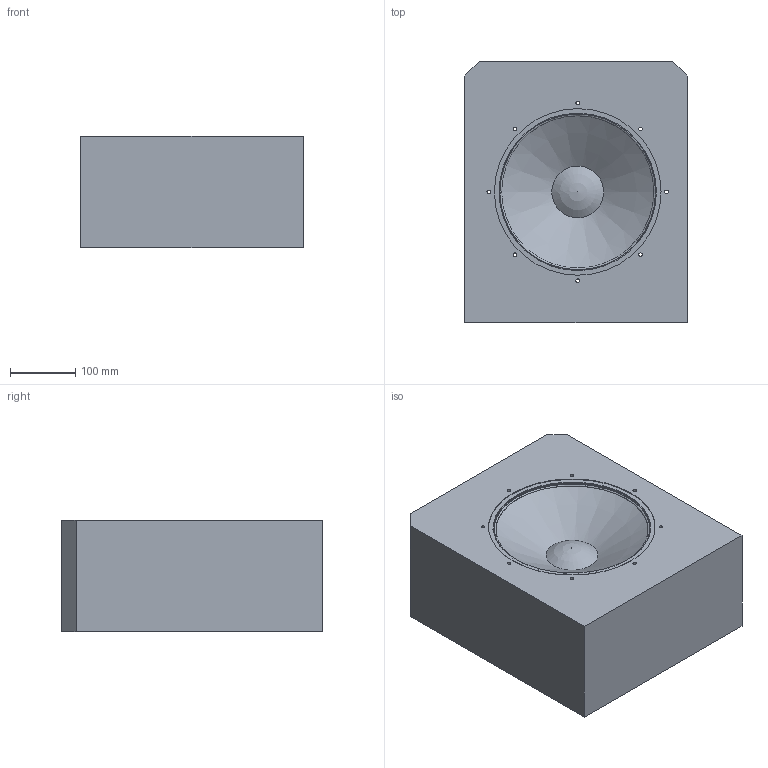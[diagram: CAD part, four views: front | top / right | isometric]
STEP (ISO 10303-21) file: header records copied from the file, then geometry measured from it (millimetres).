
FILE_DESCRIPTION(/* description */ (''),/* implementation_level */ '2;1');
FILE_NAME(/* name */ '10 Inch.stp',/* time_stamp */ '2026-07-13T09:19:38+03:00',/* author */ ('USER'),/* organization */ (''),/* preprocessor_version */ 'ST-DEVELOPER v20',/* originating_system */ 'Autodesk Inventor 2025',/* authorisation */ '');
FILE_SCHEMA (('AUTOMOTIVE_DESIGN { 1 0 10303 214 3 1 1 }'));
Length unit declared in the file: millimetre
Products named in the file (1): 10 Inch
Bounding box: 341.15 x 400 x 170 mm (x, y, z)
Volume: 12538872.5 mm3; surface area: 926766.8 mm2
Topology: 6 solids, 6 shells, 198 faces, 546 edges, 355 vertices
Faces by surface type: cylinder 73, plane 71, cone 24, bspline 18, torus 10, sphere 2
Full cylindrical faces by diameter (mm): 5.667 x8, 9.067 x2, 11.333 x6, 56.667 x1, 61.637 x2, 65.037 x1, 112.662 x1, 121.729 x1, 125.129 x2, 141.667 x1, 240.834 x1, 255 x1, 260.666 x1, 294.41 x1
Entity records: 7959 total; most frequent: CARTESIAN_POINT 2712, ORIENTED_EDGE 1088, DIRECTION 1055, EDGE_CURVE 544, AXIS2_PLACEMENT_3D 408, VERTEX_POINT 355, EDGE_LOOP 243, LINE 239
